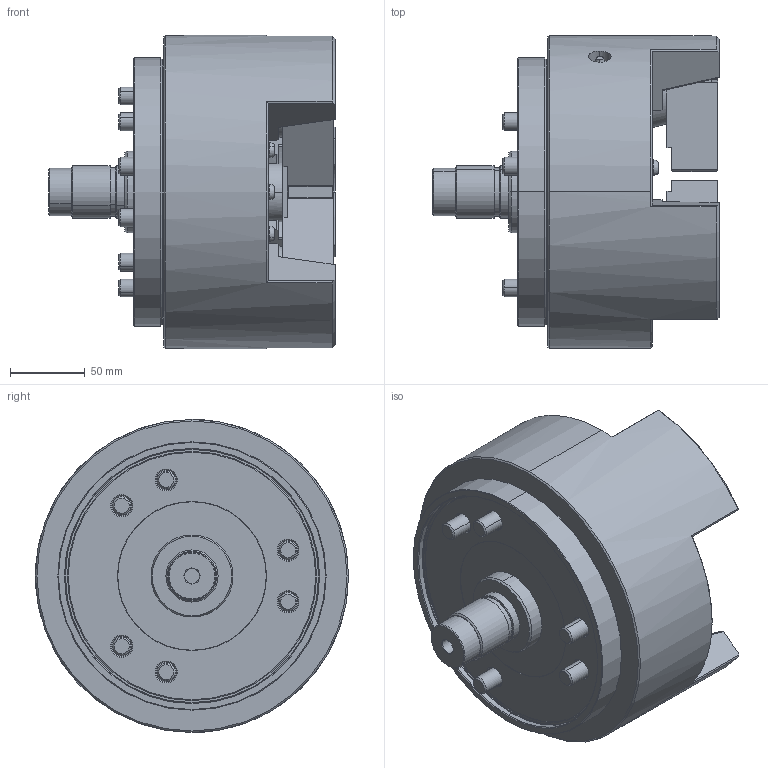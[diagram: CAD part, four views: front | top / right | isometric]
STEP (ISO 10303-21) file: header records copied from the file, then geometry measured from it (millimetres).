
FILE_DESCRIPTION (( 'STEP AP214' ), '1' );
FILE_NAME ('PU208_OC.STEP', '2019-10-18T09:02:13', ( '' ), ( '' ), 'SwSTEP 2.0', 'SolidWorks 2017', '' );
FILE_SCHEMA (( 'AUTOMOTIVE_DESIGN' ));
Length unit declared in the file: millimetre
Products named in the file (4): 結合; 0030112030; 61P332356; PU208_OC
Assembly tree (7 placements, depth 2):
  PU208_OC
    61P332356  x3
    0030112030  x3
    結合
Bounding box: 192 x 210 x 210 mm (x, y, z)
Volume: 3305811.4 mm3; surface area: 279674.2 mm2
Topology: 7 solids, 7 shells, 1112 faces, 2773 edges, 1739 vertices
Faces by surface type: plane 530, cone 211, cylinder 176, bspline 156, torus 39
Entity records: 36355 total; most frequent: CARTESIAN_POINT 13230, ORIENTED_EDGE 5038, DIRECTION 4286, EDGE_CURVE 2519, VERTEX_POINT 1601, AXIS2_PLACEMENT_3D 1466, LINE 1354, VECTOR 1354
